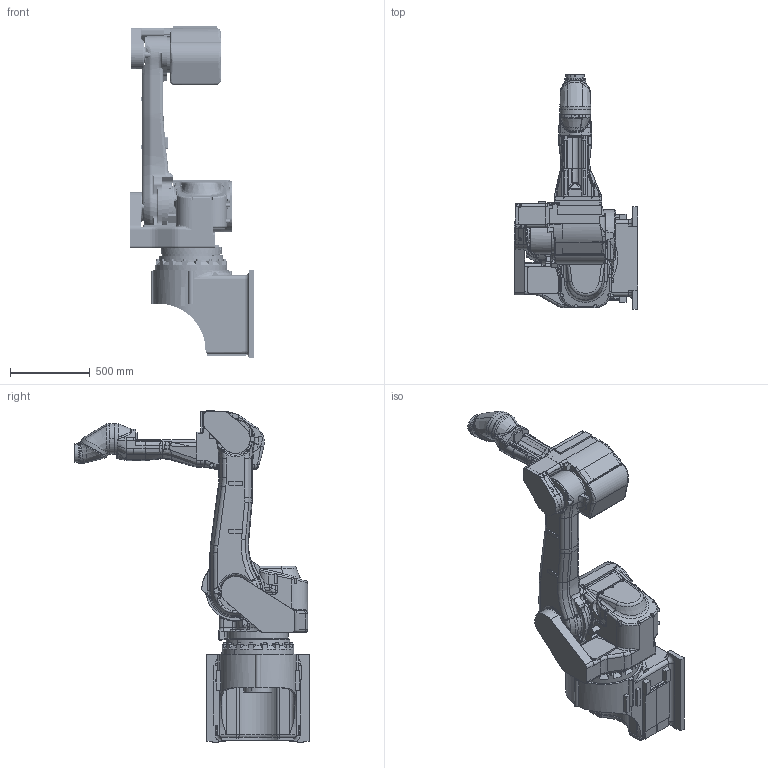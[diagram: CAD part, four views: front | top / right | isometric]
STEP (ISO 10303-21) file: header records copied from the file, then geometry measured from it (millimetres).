
FILE_DESCRIPTION(('CATIA V5 STEP Exchange'),'2;1');
FILE_NAME('F:\☆新しいフォルダ\【K-ROSET】\K-ROSET_モデル\ロボット\※ロボット\※K\☆150522_KJシリーズ一新\受領モデル\KJ\ASSY\○KJ194J-F001(kabe)\ASSY\STEP_160223\KJ194-F001.stp','2016-02-23T01:01:35+00:00',('none'),('none'),'CATIA Version 5-6 Release 2013 SP5 HF60','CATIA V5 STEP AP203','none');
FILE_SCHEMA(('CONFIG_CONTROL_DESIGN'));
Products named in the file (1): KJ194-F001
Assembly tree (7 placements, depth 2):
  KJ194-F001
    #57
    #21986
    #39136
    #72842
    #194820
    #195336
    #196454
Bounding box: 770 x 1465 x 2076 mm (x, y, z)
Volume: 168979171 mm3; surface area: 10858473.2 mm2
Topology: 7 solids, 86 shells, 4676 faces, 11699 edges, 7045 vertices
Faces by surface type: cylinder 1676, plane 1324, bspline 714, torus 462, cone 350, sphere 81, revolution 53, extrusion 16
Entity records: 197383 total; most frequent: CARTESIAN_POINT 100347, ORIENTED_EDGE 22732, DIRECTION 14445, EDGE_CURVE 11366, AXIS2_PLACEMENT_3D 7163, VERTEX_POINT 7045, EDGE_LOOP 4901, ADVANCED_FACE 4676
